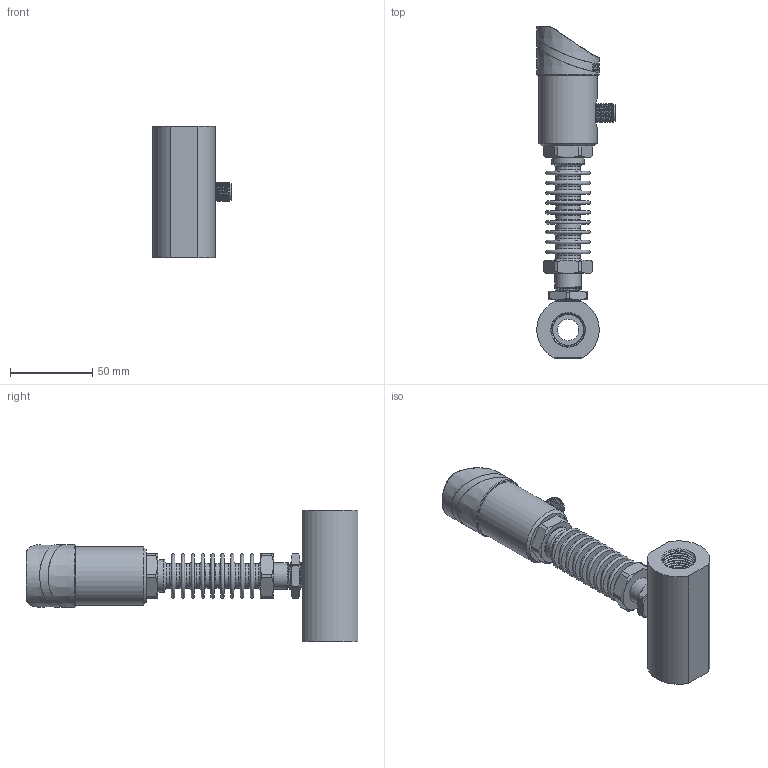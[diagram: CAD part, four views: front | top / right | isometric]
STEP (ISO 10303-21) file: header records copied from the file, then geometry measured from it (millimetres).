
FILE_DESCRIPTION( (''), '2;1');
FILE_NAME( 'QTKE_DN12_female-thread_high-temp.step', '2024-10-15T13:53:08+08:00', (''), (''), '', '', '');
FILE_SCHEMA (('AUTOMOTIVE_DESIGN { 1 0 10303 214 3 1 1 1 }'));
Products named in the file (1): QTKE DN12_female-thread_high-temp
Bounding box: 47.7 x 202 x 80 mm (x, y, z)
Volume: 108505.7 mm3; surface area: 62238.6 mm2
Topology: 5 solids, 5 shells, 989 faces, 2527 edges, 1640 vertices
Faces by surface type: plane 403, cylinder 173, extrusion 160, cone 109, bspline 63, torus 60, sphere 21
Full cylindrical faces by diameter (mm): 1.689 x1, 2 x1, 2.7 x6, 3.5 x5, 12 x1, 13 x2, 15 x10, 15.9 x1, 17 x1, 20 x1, 21 x2, 23 x3, 26 x5, 31.7 x1, 32 x1, 34 x1, 34.2 x1, 35.5 x2
Entity records: 50179 total; most frequent: CARTESIAN_POINT 23464, ORIENTED_EDGE 4680, DIRECTION 4072, EDGE_CURVE 2340, VERTEX_POINT 1585, AXIS2_PLACEMENT_3D 1453, EDGE_LOOP 1223, VECTOR 1166
